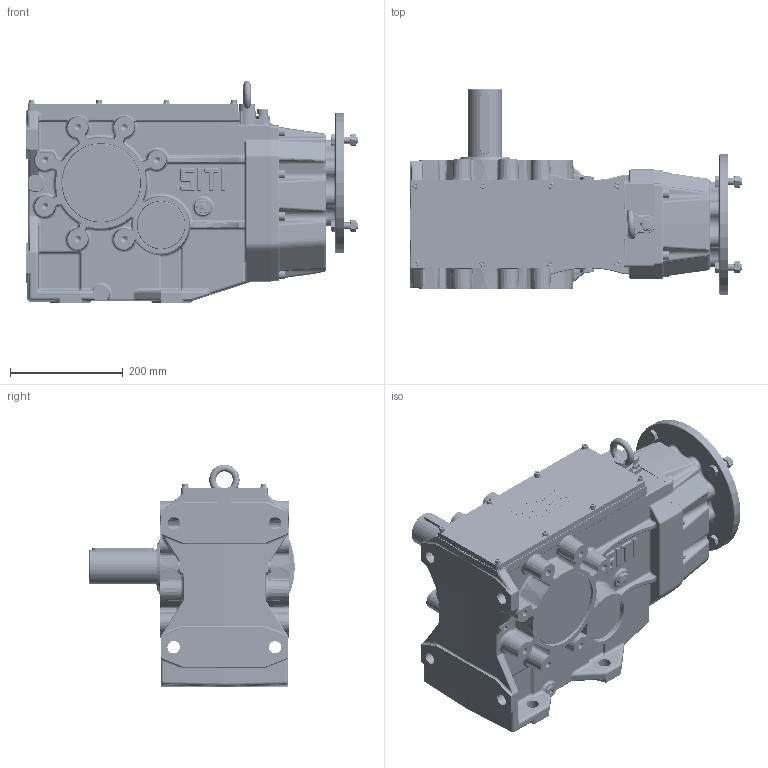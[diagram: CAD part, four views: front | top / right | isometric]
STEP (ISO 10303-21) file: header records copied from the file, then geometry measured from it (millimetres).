
FILE_DESCRIPTION((''),'2;1');
FILE_NAME('O:\Figurini\Figurini BH\3D\125\MBH 125 MS-A PAM 100-112 B5.stp','2013-05-10T16:10:05',('d.iannaccio'),(''),'Autodesk Inventor 2012','Autodesk Inventor 2012','');
FILE_SCHEMA(('AUTOMOTIVE_DESIGN { 1 0 10303 214 1 1 1 1 }'));
Length unit declared in the file: millimetre
Products named in the file (1): MBH_125 MS-A PAM 100-112 B5
Bounding box: 589.01 x 365 x 394.94 mm (x, y, z)
Volume: 10052570.7 mm3; surface area: 1874882 mm2
Topology: 68 solids, 71 shells, 4404 faces, 10363 edges, 6062 vertices
Faces by surface type: cylinder 1271, plane 1196, bspline 1001, torus 439, cone 287, sphere 210
Full cylindrical faces by diameter (mm): 4.917 x8, 6 x16, 6.4 x8, 6.647 x8, 7 x8, 8 x16, 8.376 x8, 9 x8, 10 x20, 10.106 x3, 11 x10, 11.835 x14, 12 x25, 12.5 x8, 14 x4, 14.95 x8, 16 x9, 17.835 x2, 18.95 x1, 19 x1, 19.07 x1, 19.5 x1, 20 x1, 21 x2, 22 x8, 25 x1, 30 x2, 36 x1, 37.5 x1, 39.586 x1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
Entity records: 155067 total; most frequent: CARTESIAN_POINT 58130, ORIENTED_EDGE 18812, DIRECTION 18675, EDGE_CURVE 9406, AXIS2_PLACEMENT_3D 7793, VERTEX_POINT 5839, EDGE_LOOP 5198, STYLED_ITEM 4472
